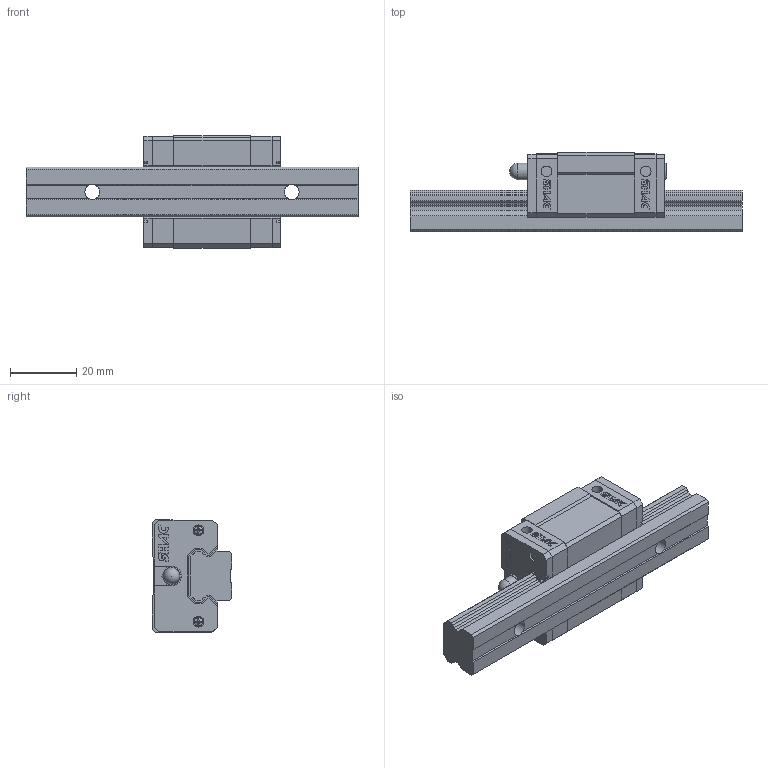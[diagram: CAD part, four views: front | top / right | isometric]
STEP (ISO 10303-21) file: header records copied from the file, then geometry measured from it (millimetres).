
FILE_DESCRIPTION( ( 'STEP AP214' ), '1' );
FILE_NAME( 'F:/品牌/SHAC 台湾鼎翰传动科技有限公司/3D滑块/GEH15SA1U100Z0C-20_20_1__.stp', '2025-04-21T22:50:13', ( 'License CC BY-ND 4.0' ), ( 'CADENAS' ), ' ', 'PARTsolutions', ' ' );
FILE_SCHEMA( ( 'AUTOMOTIVE_DESIGN { 1 0 10303 214 1 1 1 1 }' ) );
Length unit declared in the file: millimetre
Products named in the file (8): GEH15SA1U100Z0C-20/20(1_); _GE15SU100-20/20(2U)_RAIL; _GEH15SA_slider; _GES15_C; _GES15_P; _GH15_SCREW; _GH15_BOLT; _GH15-_G
Assembly tree (12 placements, depth 2):
  GEH15SA1U100Z0C-20/20(1_)
    _GE15SU100-20/20(2U)_RAIL
    _GEH15SA_slider
    _GES15_C  x2
    _GES15_P  x2
    _GH15_SCREW  x4
    _GH15_BOLT
    _GH15-_G
Bounding box: 100 x 24 x 34 mm (x, y, z)
Volume: 38245.1 mm3; surface area: 17719.9 mm2
Topology: 12 solids, 12 shells, 719 faces, 1939 edges, 1286 vertices
Faces by surface type: plane 601, cylinder 98, cone 10, sphere 5, torus 5
Full cylindrical faces by diameter (mm): 2.2 x4, 2.64 x4, 3.15 x2, 3.2 x4, 3.23 x4, 3.242 x2, 4 x2, 4.3 x2, 4.5 x2, 5 x1, 5.5 x1, 7.5 x2
Entity records: 16478 total; most frequent: CARTESIAN_POINT 2338, ORIENTED_EDGE 2206, DIRECTION 2110, EDGE_CURVE 1103, LINE 942, VECTOR 942, VERTEX_POINT 748, AXIS2_PLACEMENT_3D 584
